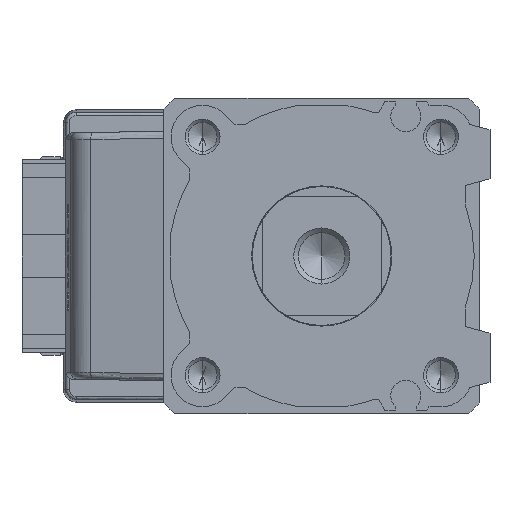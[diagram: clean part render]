
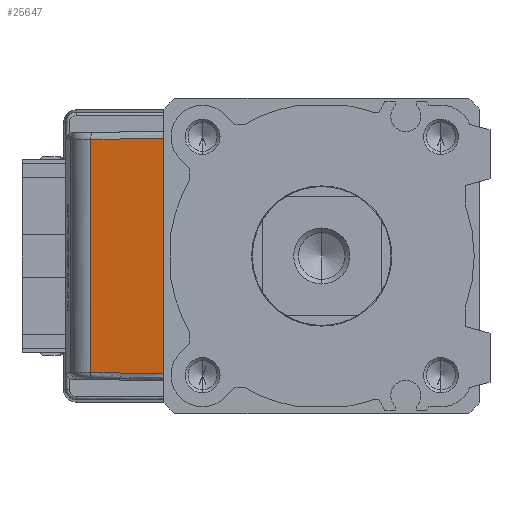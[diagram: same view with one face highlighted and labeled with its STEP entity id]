
A CAD part, left-side view. The second image highlights one B-rep face of the part: STEP entity #25647.
In plain terms, the highlighted planar face has unit normal (-0.985, 0.174, 0) as drawn and (0, 0.174, 0.985) by its records, which use the part's own axes.
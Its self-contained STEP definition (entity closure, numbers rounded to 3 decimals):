
#48 = DIRECTION ( 'NONE',  ( 1., 0., 0. ) ) ;
#448 = PLANE ( 'NONE',  #31253 ) ;
#797 = EDGE_LOOP ( 'NONE', ( #11733, #6422, #27581, #2373 ) ) ;
#1236 = CARTESIAN_POINT ( 'NONE',  ( -16.825, 21., -38.277 ) ) ;
#2373 = ORIENTED_EDGE ( 'NONE', *, *, #10947, .T. ) ;
#3116 = DIRECTION ( 'NONE',  ( 0., -0.174, -0.985 ) ) ;
#3310 = CARTESIAN_POINT ( 'NONE',  ( 16.617, 32.922, -40.379 ) ) ;
#6422 = ORIENTED_EDGE ( 'NONE', *, *, #29702, .T. ) ;
#7631 = EDGE_CURVE ( 'NONE', #9409, #14319, #20032, .T. ) ;
#9409 = VERTEX_POINT ( 'NONE', #3310 ) ;
#10947 = EDGE_CURVE ( 'NONE', #21301, #9409, #14459, .T. ) ;
#11195 = DIRECTION ( 'NONE',  ( 1., 0., 0. ) ) ;
#11733 = ORIENTED_EDGE ( 'NONE', *, *, #7631, .T. ) ;
#14319 = VERTEX_POINT ( 'NONE', #20700 ) ;
#14459 = LINE ( 'NONE', #30774, #17548 ) ;
#16073 = VECTOR ( 'NONE', #26515, 1000. ) ;
#17548 = VECTOR ( 'NONE', #36927, 1000. ) ;
#20032 = LINE ( 'NONE', #29004, #32083 ) ;
#20700 = CARTESIAN_POINT ( 'NONE',  ( -16.617, 32.922, -40.379 ) ) ;
#21301 = VERTEX_POINT ( 'NONE', #29635 ) ;
#22037 = VERTEX_POINT ( 'NONE', #1236 ) ;
#23258 = LINE ( 'NONE', #36098, #16073 ) ;
#25647 = ADVANCED_FACE ( 'NONE', ( #28447 ), #448, .F. ) ;
#26515 = DIRECTION ( 'NONE',  ( -0.017, -0.985, 0.174 ) ) ;
#27581 = ORIENTED_EDGE ( 'NONE', *, *, #34116, .T. ) ;
#28447 = FACE_OUTER_BOUND ( 'NONE', #797, .T. ) ;
#29004 = CARTESIAN_POINT ( 'NONE',  ( -17.568, 32.922, -40.379 ) ) ;
#29288 = VECTOR ( 'NONE', #11195, 1000. ) ;
#29635 = CARTESIAN_POINT ( 'NONE',  ( 16.825, 21., -38.277 ) ) ;
#29702 = EDGE_CURVE ( 'NONE', #14319, #22037, #23258, .T. ) ;
#29962 = CARTESIAN_POINT ( 'NONE',  ( 0., 21., -38.277 ) ) ;
#30157 = LINE ( 'NONE', #29962, #29288 ) ;
#30774 = CARTESIAN_POINT ( 'NONE',  ( 16.617, 32.905, -40.376 ) ) ;
#31109 = CARTESIAN_POINT ( 'NONE',  ( 0., 21.26, -38.323 ) ) ;
#31253 = AXIS2_PLACEMENT_3D ( 'NONE', #31109, #3116, #48 ) ;
#32083 = VECTOR ( 'NONE', #35530, 1000. ) ;
#34116 = EDGE_CURVE ( 'NONE', #22037, #21301, #30157, .T. ) ;
#35530 = DIRECTION ( 'NONE',  ( -1., 0., 0. ) ) ;
#36098 = CARTESIAN_POINT ( 'NONE',  ( -16.825, 20.983, -38.274 ) ) ;
#36927 = DIRECTION ( 'NONE',  ( -0.017, 0.985, -0.174 ) ) ;
